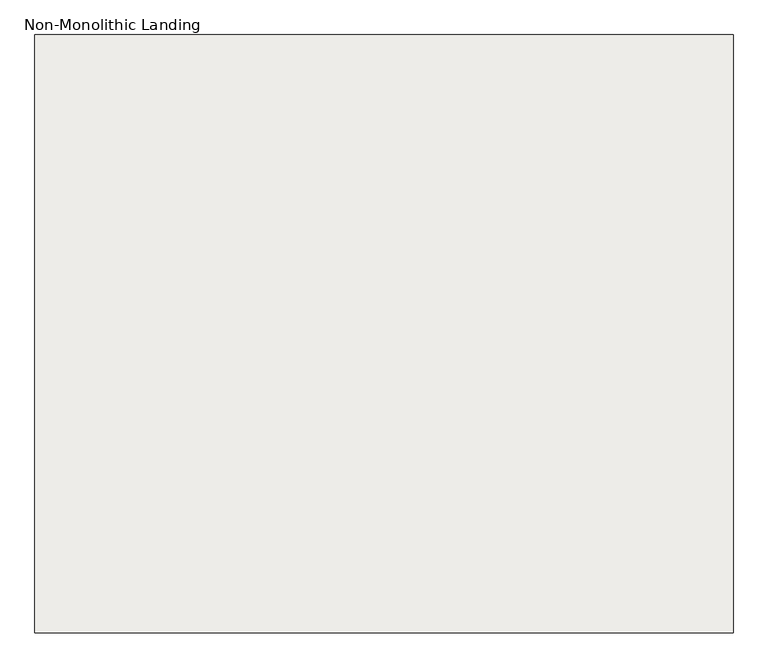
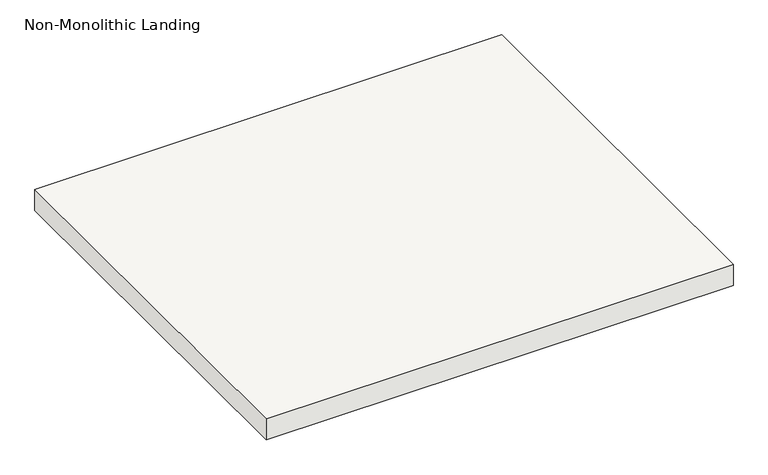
"""IFC4 building model written with IfcOpenShell, lengths in millimetres: slab geometry, Non-Monolithic Landing."""

import ifcopenshell
import ifcopenshell.guid

model = None  # the IFC model being written
_history = None  # IfcOwnerHistory: only IFC2X3 demands one
_inside = {}  # id of a spatial element -> (the spatial element, [elements in it])
_under = {}  # id of a project, library or spatial element -> (it, [spatial elements below it])
_declared = {}  # id of a project -> (the project, [libraries it declares])
_typed = {}  # id of a type object -> (the type object, [elements of that type])
_made_of = {}  # id of a material, layer set ... -> (it, [elements and type objects made of it])


def new_model(schema):
    """Start an empty IFC model of exactly this schema.

    Asked for "IFC4X3", IfcOpenShell would pick the latest addendum, in which some entities
    have other attributes; the version numbers below select the first issue.
    IFC2X3 requires an IfcOwnerHistory on every rooted entity: one is made here for all.
    """
    global model, _history
    if schema == "IFC4X3":
        model = ifcopenshell.file(schema_version=(4, 3, 0, 0))
    else:
        model = ifcopenshell.file(schema=schema)
    _inside.clear()
    _under.clear()
    _declared.clear()
    _typed.clear()
    _made_of.clear()
    _history = None
    if model.schema == "IFC2X3":
        org = make("IfcOrganization", Name="unknown")
        user = make(
            "IfcPersonAndOrganization",
            ThePerson=make("IfcPerson", FamilyName="unknown"),
            TheOrganization=org,
        )
        app = make(
            "IfcApplication",
            ApplicationDeveloper=org,
            Version="unknown",
            ApplicationFullName="unknown",
            ApplicationIdentifier="unknown",
        )
        _history = make(
            "IfcOwnerHistory",
            OwningUser=user,
            OwningApplication=app,
            ChangeAction="ADDED",
            CreationDate=0,
        )
    return model


def make(cls, **values):
    """One entity of the class cls with the attributes given. An attribute that is None is left unset."""
    return model.create_entity(
        cls, **{name: value for name, value in values.items() if value is not None}
    )


def rooted(cls, **values):
    """An entity with a GlobalId (a new one), such as an element, a storey or a relation."""
    return make(cls, GlobalId=ifcopenshell.guid.new(), OwnerHistory=_history, **values)


def si_unit(unit_type, name, prefix=None):
    """IfcSIUnit, for example si_unit("LENGTHUNIT", "METRE", prefix="MILLI")."""
    return make("IfcSIUnit", UnitType=unit_type, Prefix=prefix, Name=name)


def assignment(units):
    """IfcUnitAssignment: the units of a project."""
    return None if units is None else make("IfcUnitAssignment", Units=units)


def point(xyz):
    """IfcCartesianPoint."""
    return None if xyz is None else make("IfcCartesianPoint", Coordinates=xyz)


def direction(xyz):
    """IfcDirection."""
    return None if xyz is None else make("IfcDirection", DirectionRatios=xyz)


def frame(location, z_axis=None, x_axis=None):
    """IfcAxis2Placement3D, a coordinate frame: its origin and axes. An axis left out is left unset."""
    return make(
        "IfcAxis2Placement3D",
        Location=point(location),
        Axis=direction(z_axis),
        RefDirection=direction(x_axis),
    )


def origin():
    """The frame at (0, 0, 0) with its axes left unset."""
    return frame((0.0, 0.0, 0.0))


def place(relative_to, where):
    """IfcLocalPlacement: puts the frame where relative to a parent placement (None: the world)."""
    return make(
        "IfcLocalPlacement", PlacementRelTo=relative_to, RelativePlacement=where
    )


def context(
    kind, dimensions, precision=None, world=None, true_north=None, identifier=None
):
    """IfcGeometricRepresentationContext, for example the 3D "Model" context."""
    return make(
        "IfcGeometricRepresentationContext",
        ContextIdentifier=identifier,
        ContextType=kind,
        CoordinateSpaceDimension=dimensions,
        Precision=precision,
        WorldCoordinateSystem=world,
        TrueNorth=true_north,
    )


def project(units=None, contexts=None):
    """IfcProject with its units and contexts."""
    return rooted(
        "IfcProject",
        Name="project",
        RepresentationContexts=contexts,
        UnitsInContext=assignment(units),
    )


def spatial(cls, under=None, at=None, **own):
    """A site, building, storey or space (cls), placed at a placement, below another one or the project."""
    s = rooted(cls, ObjectPlacement=at, **own)
    if under is not None:
        _under.setdefault(under.id(), (under, []))[1].append(s)
    return s


def polyline(points):
    """IfcPolyline through the points."""
    return make("IfcPolyline", Points=[point(p) for p in points])


def outline(outer, holes=None, kind="AREA"):
    """IfcArbitraryClosedProfileDef: a profile drawn as a closed curve; with holes, ...WithVoids."""
    if holes is None:
        return make("IfcArbitraryClosedProfileDef", ProfileType=kind, OuterCurve=outer)
    return make(
        "IfcArbitraryProfileDefWithVoids",
        ProfileType=kind,
        OuterCurve=outer,
        InnerCurves=holes,
    )


def extrude(swept, where, along, depth):
    """IfcExtrudedAreaSolid: the profile swept, set in the frame where, extruded along a direction by depth."""
    return make(
        "IfcExtrudedAreaSolid",
        SweptArea=swept,
        Position=where,
        ExtrudedDirection=direction(along),
        Depth=depth,
    )


def shape(context_of_items, identifier, shape_type, items):
    """IfcShapeRepresentation: the items that make up one representation, for example the "Body"."""
    return make(
        "IfcShapeRepresentation",
        ContextOfItems=context_of_items,
        RepresentationIdentifier=identifier,
        RepresentationType=shape_type,
        Items=items,
    )


def source(mapping_origin, context_of_items, identifier, shape_type, items):
    """IfcRepresentationMap: a shape defined once, which mapped items show again and again."""
    return make(
        "IfcRepresentationMap",
        MappingOrigin=mapping_origin,
        MappedRepresentation=shape(context_of_items, identifier, shape_type, items),
    )


def transform(
    local_origin,
    x_axis=None,
    y_axis=None,
    z_axis=None,
    scale=None,
    scale2=None,
    scale3=None,
    uniform=True,
):
    """IfcCartesianTransformationOperator3D, or its non-uniform kind. x_axis, y_axis, z_axis: its Axis1, 2, 3."""
    if uniform:
        return make(
            "IfcCartesianTransformationOperator3D",
            Axis1=direction(x_axis),
            Axis2=direction(y_axis),
            LocalOrigin=point(local_origin),
            Scale=scale,
            Axis3=direction(z_axis),
        )
    return make(
        "IfcCartesianTransformationOperator3DnonUniform",
        Axis1=direction(x_axis),
        Axis2=direction(y_axis),
        LocalOrigin=point(local_origin),
        Scale=scale,
        Axis3=direction(z_axis),
        Scale2=scale2,
        Scale3=scale3,
    )


def mapped(mapping_source, mapping_target):
    """IfcMappedItem: shows the shape of a source again, moved by a transform."""
    return make(
        "IfcMappedItem", MappingSource=mapping_source, MappingTarget=mapping_target
    )


def made_of(thing, what):
    """Note that an element or type object is made of a material, layer set ...; save() writes the relation."""
    if what is not None:
        _made_of.setdefault(what.id(), (what, []))[1].append(thing)
    return thing


def element(
    cls,
    number,
    at=None,
    inside=None,
    cuts=None,
    type_object=None,
    material=None,
    context=None,
    identifier="Body",
    shape_type=None,
    held_by="IfcProductDefinitionShape",
    body=None,
    shapes=None,
    **own,
):
    """One element of the class cls, such as IfcWall. Its Tag is "e" and its number.

    at: its placement. inside: the storey or other place that contains it. cuts: it is an
    opening in that element (IfcRelVoidsElement). A single representation is given by context,
    identifier, shape_type and body (its items); several are given by shapes. held_by: the class
    of the entity that holds the representations. save() writes the other relations.
    """
    e = rooted(cls, Tag="e%d" % number, ObjectPlacement=at, **own)
    if body is not None:
        shapes = [shape(context, identifier, shape_type, body)]
    if shapes is not None:
        e.Representation = make(held_by, Representations=shapes)
    if inside is not None:
        _inside.setdefault(inside.id(), (inside, []))[1].append(e)
    if cuts is not None:
        rooted(
            "IfcRelVoidsElement", RelatingBuildingElement=cuts, RelatedOpeningElement=e
        )
    if type_object is not None:
        _typed.setdefault(type_object.id(), (type_object, []))[1].append(e)
    return made_of(e, material)


def aggregate(whole, parts):
    """IfcRelAggregates: a whole, such as a stair, and the parts it consists of."""
    return rooted("IfcRelAggregates", RelatingObject=whole, RelatedObjects=parts)


def save(model, path):
    """Write the relations noted so far, then the file.

    IfcRelAggregates (storeys below a building ...), IfcRelContainedInSpatialStructure (elements
    in a storey), IfcRelDefinesByType, IfcRelAssociatesMaterial and IfcRelDeclares: one each for
    every whole, place, type object, material and project.
    """
    for whole, parts in _under.values():
        aggregate(whole, parts)
    for where, things in _inside.values():
        rooted(
            "IfcRelContainedInSpatialStructure",
            RelatedElements=things,
            RelatingStructure=where,
        )
    for kind, things in _typed.values():
        rooted("IfcRelDefinesByType", RelatedObjects=things, RelatingType=kind)
    for what, things in _made_of.values():
        rooted("IfcRelAssociatesMaterial", RelatedObjects=things, RelatingMaterial=what)
    for by, libraries in _declared.values():
        rooted("IfcRelDeclares", RelatingContext=by, RelatedDefinitions=libraries)
    model.write(path)


def non_monolithic_landing_090549e4(model_context):
    return source(origin(), model_context, "Body", "SweptSolid", [
        extrude(outline(polyline([(163305.9122654, -34610.1173894), (164372.7122654, -34610.1173894), (164372.7122654, -35524.5173894), (163305.9122654, -35524.5173894), (163305.9122654, -34610.1173894)])), frame((0.0, 0.0, 2195.0947368), z_axis=(0.0, 0.0, 1.0), x_axis=(1.0, 0.0, 0.0)), (0.0, 0.0, 1.0), 50.8),
    ])


if __name__ == "__main__":
    model = new_model("IFC4")
    model_context = context("Model", 3, world=origin())
    ifc_project = project(units=[si_unit("LENGTHUNIT", "METRE", prefix="MILLI")], contexts=[model_context])
    site = spatial("IfcSite", under=ifc_project)
    building = spatial("IfcBuilding", under=site)
    placement = place(None, origin())
    non_monolithic_landing_shape = non_monolithic_landing_090549e4(model_context)
    element("IfcSlab", 1, ObjectType="Non-Monolithic Landing", at=placement, inside=building, context=model_context, shape_type="MappedRepresentation", body=[
        mapped(non_monolithic_landing_shape, transform((0.0, 0.0, 0.0), x_axis=(1.0, 0.0, 0.0), y_axis=(0.0, 1.0, 0.0), z_axis=(0.0, 0.0, 1.0))),
    ])
    save(model, "model.ifc")
